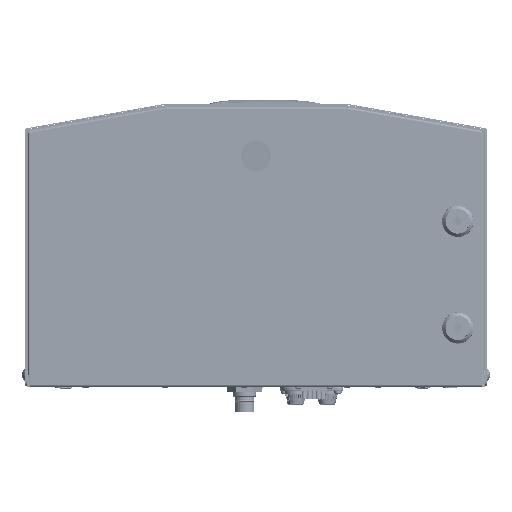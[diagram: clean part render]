
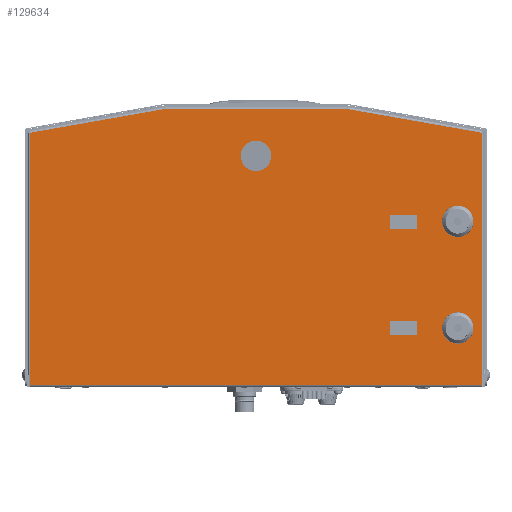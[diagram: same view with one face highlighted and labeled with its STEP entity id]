
A CAD part, front view. The second image highlights one B-rep face of the part: STEP entity #129634.
In plain terms, the highlighted planar face has unit normal (0, -1, 0).
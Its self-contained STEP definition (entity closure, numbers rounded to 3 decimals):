
#6732 = VECTOR ( 'NONE', #248852, 1000. ) ;
#7089 = AXIS2_PLACEMENT_3D ( 'NONE', #314623, #139789, #156824 ) ;
#7574 = VERTEX_POINT ( 'NONE', #77105 ) ;
#18552 = EDGE_CURVE ( 'NONE', #282348, #28116, #262783, .T. ) ;
#18690 = FACE_BOUND ( 'NONE', #33172, .T. ) ;
#20944 = AXIS2_PLACEMENT_3D ( 'NONE', #103890, #211050, #135438 ) ;
#25806 = EDGE_CURVE ( 'NONE', #28116, #282348, #207214, .T. ) ;
#26634 = CARTESIAN_POINT ( 'NONE',  ( 218.547, -826.422, 49.543 ) ) ;
#28116 = VERTEX_POINT ( 'NONE', #47792 ) ;
#28793 = EDGE_LOOP ( 'NONE', ( #194689, #218441 ) ) ;
#32203 = DIRECTION ( 'NONE',  ( 0., -1., 0. ) ) ;
#33172 = EDGE_LOOP ( 'NONE', ( #288380, #325249 ) ) ;
#37168 = CARTESIAN_POINT ( 'NONE',  ( -247., -826.422, 0.787 ) ) ;
#47321 = EDGE_CURVE ( 'NONE', #266920, #237807, #235632, .T. ) ;
#47792 = CARTESIAN_POINT ( 'NONE',  ( 218.547, -826.422, 74.943 ) ) ;
#48072 = VERTEX_POINT ( 'NONE', #104355 ) ;
#55715 = ORIENTED_EDGE ( 'NONE', *, *, #277076, .T. ) ;
#57658 = DIRECTION ( 'NONE',  ( -1., 0., 0. ) ) ;
#61316 = CARTESIAN_POINT ( 'NONE',  ( 218.547, -826.422, 177.758 ) ) ;
#64175 = LINE ( 'NONE', #37168, #193859 ) ;
#68694 = ORIENTED_EDGE ( 'NONE', *, *, #47321, .T. ) ;
#73864 = DIRECTION ( 'NONE',  ( 0., 1., 0. ) ) ;
#77105 = CARTESIAN_POINT ( 'NONE',  ( 218.547, -826.422, 165.058 ) ) ;
#82958 = ORIENTED_EDGE ( 'NONE', *, *, #312657, .T. ) ;
#83313 = CARTESIAN_POINT ( 'NONE',  ( 0., -826.422, 232.068 ) ) ;
#86486 = DIRECTION ( 'NONE',  ( 0., 0., -1. ) ) ;
#90083 = ORIENTED_EDGE ( 'NONE', *, *, #135376, .T. ) ;
#93049 = DIRECTION ( 'NONE',  ( 0., 0., -1. ) ) ;
#97196 = CIRCLE ( 'NONE', #273709, 16.51 ) ;
#97962 = AXIS2_PLACEMENT_3D ( 'NONE', #182234, #32203, #207423 ) ;
#100692 = VERTEX_POINT ( 'NONE', #220799 ) ;
#103890 = CARTESIAN_POINT ( 'NONE',  ( 218.547, -826.422, 62.243 ) ) ;
#104355 = CARTESIAN_POINT ( 'NONE',  ( 98.607, -826.422, 299.368 ) ) ;
#104760 = VERTEX_POINT ( 'NONE', #113292 ) ;
#113292 = CARTESIAN_POINT ( 'NONE',  ( 0., -826.422, 265.088 ) ) ;
#113814 = DIRECTION ( 'NONE',  ( -1., 0., 0. ) ) ;
#117806 = VECTOR ( 'NONE', #296485, 1000. ) ;
#120454 = AXIS2_PLACEMENT_3D ( 'NONE', #223838, #73864, #249038 ) ;
#121066 = CARTESIAN_POINT ( 'NONE',  ( 244.798, -826.422, 273.59 ) ) ;
#123393 = VECTOR ( 'NONE', #57658, 1000. ) ;
#124204 = EDGE_CURVE ( 'NONE', #277578, #48072, #251030, .T. ) ;
#129634 = ADVANCED_FACE ( 'NONE', ( #277552, #18690, #210779, #144085 ), #280107, .F. ) ;
#129845 = DIRECTION ( 'NONE',  ( 0., 1., 0. ) ) ;
#135376 = EDGE_CURVE ( 'NONE', #48072, #266920, #189968, .T. ) ;
#135438 = DIRECTION ( 'NONE',  ( 0., 0., -1. ) ) ;
#136625 = CARTESIAN_POINT ( 'NONE',  ( 244.79, -826.422, 273.592 ) ) ;
#139789 = DIRECTION ( 'NONE',  ( 0., -1., 0. ) ) ;
#139910 = LINE ( 'NONE', #148028, #6732 ) ;
#144085 = FACE_OUTER_BOUND ( 'NONE', #306285, .T. ) ;
#144192 = AXIS2_PLACEMENT_3D ( 'NONE', #61316, #236446, #86486 ) ;
#146722 = CARTESIAN_POINT ( 'NONE',  ( 0., -826.422, 248.578 ) ) ;
#148028 = CARTESIAN_POINT ( 'NONE',  ( 244.79, -826.422, 0.787 ) ) ;
#152470 = LINE ( 'NONE', #280643, #211261 ) ;
#156824 = DIRECTION ( 'NONE',  ( 0., 0., -1. ) ) ;
#158290 = DIRECTION ( 'NONE',  ( -0.985, 0., -0.174 ) ) ;
#160856 = CIRCLE ( 'NONE', #97962, 12.7 ) ;
#161106 = ORIENTED_EDGE ( 'NONE', *, *, #188466, .T. ) ;
#171916 = DIRECTION ( 'NONE',  ( 0., 0., 1. ) ) ;
#178627 = EDGE_CURVE ( 'NONE', #100692, #247970, #64175, .T. ) ;
#178636 = VERTEX_POINT ( 'NONE', #289182 ) ;
#182234 = CARTESIAN_POINT ( 'NONE',  ( 218.547, -826.422, 177.758 ) ) ;
#186990 = AXIS2_PLACEMENT_3D ( 'NONE', #229549, #129845, #305335 ) ;
#188466 = EDGE_CURVE ( 'NONE', #100692, #277578, #139910, .T. ) ;
#188667 = EDGE_LOOP ( 'NONE', ( #55715, #236885 ) ) ;
#189968 = LINE ( 'NONE', #232762, #123393 ) ;
#193859 = VECTOR ( 'NONE', #113814, 1000. ) ;
#194689 = ORIENTED_EDGE ( 'NONE', *, *, #18552, .F. ) ;
#207214 = CIRCLE ( 'NONE', #20944, 12.7 ) ;
#207423 = DIRECTION ( 'NONE',  ( 0., 0., -1. ) ) ;
#208670 = CARTESIAN_POINT ( 'NONE',  ( -98.607, -826.422, 299.368 ) ) ;
#210779 = FACE_BOUND ( 'NONE', #28793, .T. ) ;
#211050 = DIRECTION ( 'NONE',  ( 0., -1., 0. ) ) ;
#211261 = VECTOR ( 'NONE', #93049, 1000. ) ;
#215239 = ORIENTED_EDGE ( 'NONE', *, *, #178627, .F. ) ;
#217409 = EDGE_CURVE ( 'NONE', #178636, #7574, #297145, .T. ) ;
#218441 = ORIENTED_EDGE ( 'NONE', *, *, #25806, .F. ) ;
#220799 = CARTESIAN_POINT ( 'NONE',  ( 244.79, -826.422, 0.787 ) ) ;
#223838 = CARTESIAN_POINT ( 'NONE',  ( 0., -826.422, 248.578 ) ) ;
#229549 = CARTESIAN_POINT ( 'NONE',  ( -247., -826.422, 301.578 ) ) ;
#232762 = CARTESIAN_POINT ( 'NONE',  ( 98.607, -826.422, 299.368 ) ) ;
#235632 = LINE ( 'NONE', #208670, #243450 ) ;
#236446 = DIRECTION ( 'NONE',  ( 0., -1., 0. ) ) ;
#236885 = ORIENTED_EDGE ( 'NONE', *, *, #259885, .T. ) ;
#237807 = VERTEX_POINT ( 'NONE', #254392 ) ;
#238837 = ORIENTED_EDGE ( 'NONE', *, *, #124204, .T. ) ;
#242881 = CARTESIAN_POINT ( 'NONE',  ( -98.607, -826.422, 299.368 ) ) ;
#243450 = VECTOR ( 'NONE', #158290, 1000. ) ;
#247042 = VERTEX_POINT ( 'NONE', #83313 ) ;
#247970 = VERTEX_POINT ( 'NONE', #322638 ) ;
#248852 = DIRECTION ( 'NONE',  ( 0., 0., 1. ) ) ;
#249038 = DIRECTION ( 'NONE',  ( 0., 0., 1. ) ) ;
#251030 = LINE ( 'NONE', #121066, #117806 ) ;
#251083 = CIRCLE ( 'NONE', #120454, 16.51 ) ;
#254392 = CARTESIAN_POINT ( 'NONE',  ( -244.79, -826.422, 273.592 ) ) ;
#259885 = EDGE_CURVE ( 'NONE', #247042, #104760, #251083, .T. ) ;
#262783 = CIRCLE ( 'NONE', #7089, 12.7 ) ;
#266920 = VERTEX_POINT ( 'NONE', #242881 ) ;
#273709 = AXIS2_PLACEMENT_3D ( 'NONE', #146722, #322245, #171916 ) ;
#277076 = EDGE_CURVE ( 'NONE', #104760, #247042, #97196, .T. ) ;
#277552 = FACE_BOUND ( 'NONE', #188667, .T. ) ;
#277578 = VERTEX_POINT ( 'NONE', #136625 ) ;
#280107 = PLANE ( 'NONE',  #186990 ) ;
#280643 = CARTESIAN_POINT ( 'NONE',  ( -244.79, -826.422, 273.6 ) ) ;
#282348 = VERTEX_POINT ( 'NONE', #26634 ) ;
#288380 = ORIENTED_EDGE ( 'NONE', *, *, #302012, .F. ) ;
#289182 = CARTESIAN_POINT ( 'NONE',  ( 218.547, -826.422, 190.458 ) ) ;
#296485 = DIRECTION ( 'NONE',  ( -0.985, 0., 0.174 ) ) ;
#297145 = CIRCLE ( 'NONE', #144192, 12.7 ) ;
#302012 = EDGE_CURVE ( 'NONE', #7574, #178636, #160856, .T. ) ;
#305335 = DIRECTION ( 'NONE',  ( 0., 0., 1. ) ) ;
#306285 = EDGE_LOOP ( 'NONE', ( #161106, #238837, #90083, #68694, #82958, #215239 ) ) ;
#312657 = EDGE_CURVE ( 'NONE', #237807, #247970, #152470, .T. ) ;
#314623 = CARTESIAN_POINT ( 'NONE',  ( 218.547, -826.422, 62.243 ) ) ;
#322245 = DIRECTION ( 'NONE',  ( 0., 1., 0. ) ) ;
#322638 = CARTESIAN_POINT ( 'NONE',  ( -244.79, -826.422, 0.787 ) ) ;
#325249 = ORIENTED_EDGE ( 'NONE', *, *, #217409, .F. ) ;
